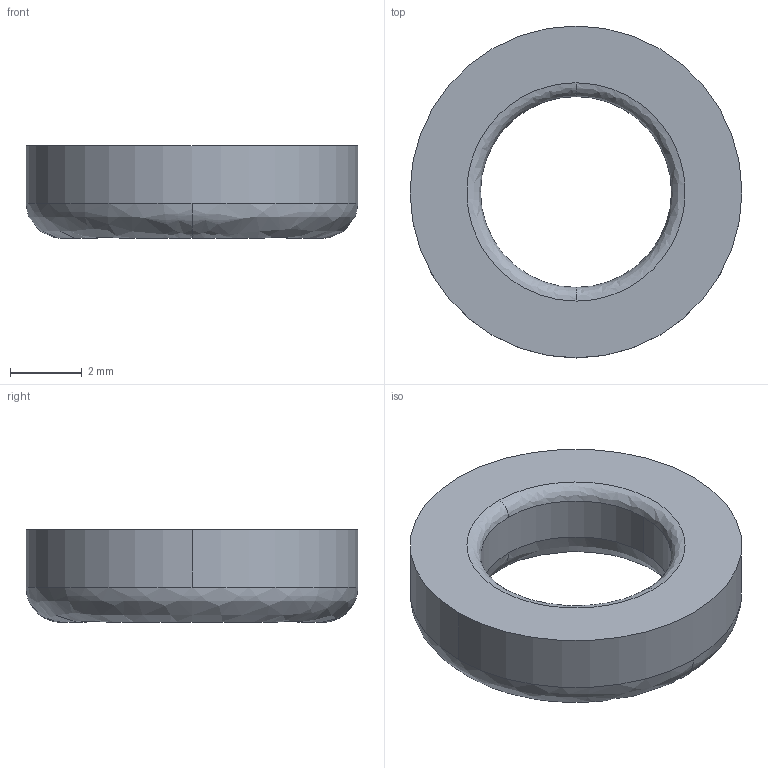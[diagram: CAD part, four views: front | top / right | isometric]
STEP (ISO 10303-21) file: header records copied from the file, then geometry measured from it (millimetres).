
FILE_DESCRIPTION (( 'STEP AP203' ), '1' );
FILE_NAME ('LRGK0375_Gasket_Compressed 18%.STEP', '2021-01-12T17:54:17', ( '' ), ( '' ), 'SwSTEP 2.0', 'SolidWorks 2020', '' );
FILE_SCHEMA (( 'CONFIG_CONTROL_DESIGN' ));
Length unit declared in the file: inch
Products named in the file (1): LRGK0375_Gasket_Compressed 18%
Bounding box: 9.27 x 9.27 x 2.59 mm (x, y, z)
Volume: 106.9 mm3; surface area: 187.1 mm2
Topology: 1 solids, 1 shells, 9 faces, 24 edges, 16 vertices
Faces by surface type: bspline 4, cylinder 4, plane 1
Entity records: 493 total; most frequent: CARTESIAN_POINT 184, DIRECTION 52, ORIENTED_EDGE 48, AXIS2_PLACEMENT_3D 24, EDGE_CURVE 24, CIRCLE 18, VERTEX_POINT 16, EDGE_LOOP 10
